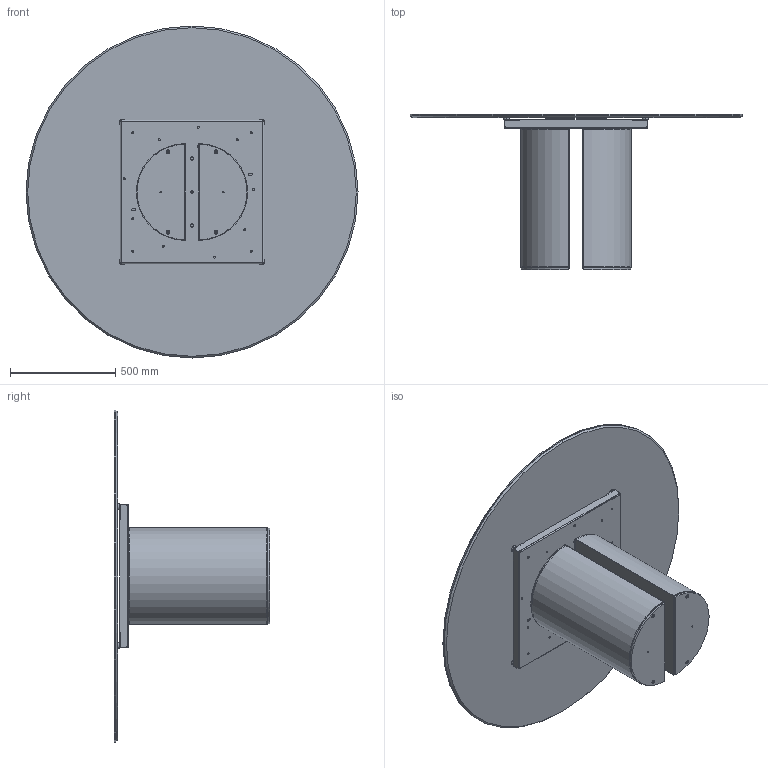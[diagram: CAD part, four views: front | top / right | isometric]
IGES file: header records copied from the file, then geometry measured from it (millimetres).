
Start section: SolidWorks IGES file using analytic representation for surfaces
Global section: file name: Y:\eforma\TECNICO\SOLIDWORKS\E-FORMA\1-TAVOLI\DORA\02 parts\DR08C.IGS; native system: SolidWorks 2022; preprocessor: SolidWorks 2022; author: eforma.tech; date: 240806.150049; units: millimetre
Bounding box: 1580 x 740 x 1580 mm (x, y, z)
Volume: 39077826.2 mm3; surface area: 12951363.7 mm2
Topology: 29 solids, 29 shells, 712 faces, 1788 edges, 1130 vertices
Faces by surface type: plane 360, revolution 352
